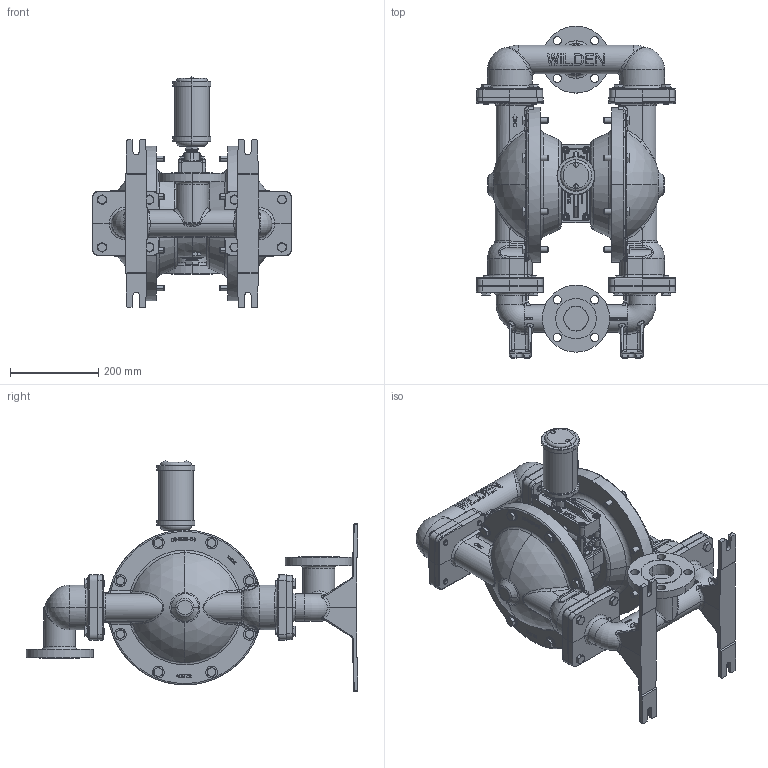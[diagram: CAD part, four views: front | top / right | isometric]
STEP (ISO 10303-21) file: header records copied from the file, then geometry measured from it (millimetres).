
FILE_DESCRIPTION (( 'STEP AP203' ), '1' );
FILE_NAME ('P830_SS_TOP.STEP', '2022-07-05T07:48:44', ( '' ), ( '' ), 'SwSTEP 2.0', 'SolidWorks 2019', '' );
FILE_SCHEMA (( 'CONFIG_CONTROL_DESIGN' ));
Products named in the file (1): P830_SS_TOP
Bounding box: 452.41 x 754 x 522.61 mm (x, y, z)
Volume: 26880935.4 mm3; surface area: 1442277.8 mm2
Topology: 1 solids, 1 shells, 6233 faces, 16457 edges, 10467 vertices
Faces by surface type: plane 4097, cylinder 999, bspline 403, cone 393, torus 190, sphere 151
Entity records: 308593 total; most frequent: CARTESIAN_POINT 158522, ORIENTED_EDGE 32798, DIRECTION 28643, EDGE_CURVE 16399, LINE 11379, VECTOR 11379, VERTEX_POINT 10450, AXIS2_PLACEMENT_3D 8632
